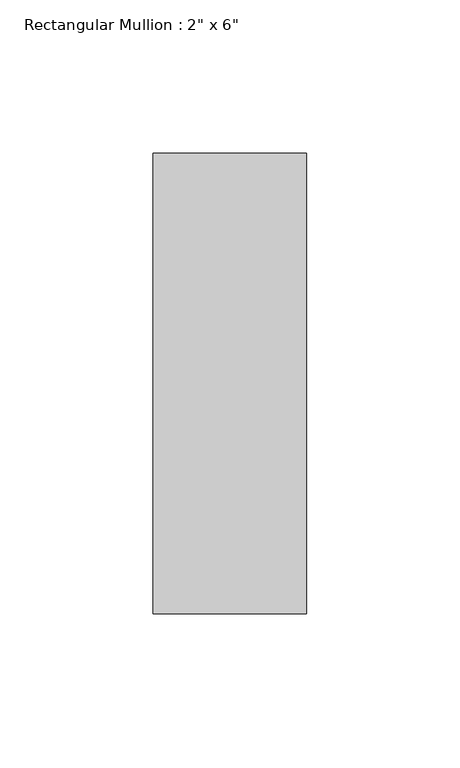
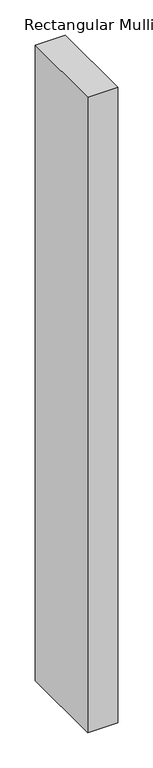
"""IFC4 building model written with IfcOpenShell, lengths in millimetres: member geometry."""

import ifcopenshell
import ifcopenshell.guid

model = None  # the IFC model being written
_history = None  # IfcOwnerHistory: only IFC2X3 demands one
_inside = {}  # id of a spatial element -> (the spatial element, [elements in it])
_under = {}  # id of a project, library or spatial element -> (it, [spatial elements below it])
_declared = {}  # id of a project -> (the project, [libraries it declares])
_typed = {}  # id of a type object -> (the type object, [elements of that type])
_made_of = {}  # id of a material, layer set ... -> (it, [elements and type objects made of it])


def new_model(schema):
    """Start an empty IFC model of exactly this schema.

    Asked for "IFC4X3", IfcOpenShell would pick the latest addendum, in which some entities
    have other attributes; the version numbers below select the first issue.
    IFC2X3 requires an IfcOwnerHistory on every rooted entity: one is made here for all.
    """
    global model, _history
    if schema == "IFC4X3":
        model = ifcopenshell.file(schema_version=(4, 3, 0, 0))
    else:
        model = ifcopenshell.file(schema=schema)
    _inside.clear()
    _under.clear()
    _declared.clear()
    _typed.clear()
    _made_of.clear()
    _history = None
    if model.schema == "IFC2X3":
        org = make("IfcOrganization", Name="unknown")
        user = make(
            "IfcPersonAndOrganization",
            ThePerson=make("IfcPerson", FamilyName="unknown"),
            TheOrganization=org,
        )
        app = make(
            "IfcApplication",
            ApplicationDeveloper=org,
            Version="unknown",
            ApplicationFullName="unknown",
            ApplicationIdentifier="unknown",
        )
        _history = make(
            "IfcOwnerHistory",
            OwningUser=user,
            OwningApplication=app,
            ChangeAction="ADDED",
            CreationDate=0,
        )
    return model


def make(cls, **values):
    """One entity of the class cls with the attributes given. An attribute that is None is left unset."""
    return model.create_entity(
        cls, **{name: value for name, value in values.items() if value is not None}
    )


def rooted(cls, **values):
    """An entity with a GlobalId (a new one), such as an element, a storey or a relation."""
    return make(cls, GlobalId=ifcopenshell.guid.new(), OwnerHistory=_history, **values)


def si_unit(unit_type, name, prefix=None):
    """IfcSIUnit, for example si_unit("LENGTHUNIT", "METRE", prefix="MILLI")."""
    return make("IfcSIUnit", UnitType=unit_type, Prefix=prefix, Name=name)


def assignment(units):
    """IfcUnitAssignment: the units of a project."""
    return None if units is None else make("IfcUnitAssignment", Units=units)


def point(xyz):
    """IfcCartesianPoint."""
    return None if xyz is None else make("IfcCartesianPoint", Coordinates=xyz)


def direction(xyz):
    """IfcDirection."""
    return None if xyz is None else make("IfcDirection", DirectionRatios=xyz)


def frame(location, z_axis=None, x_axis=None):
    """IfcAxis2Placement3D, a coordinate frame: its origin and axes. An axis left out is left unset."""
    return make(
        "IfcAxis2Placement3D",
        Location=point(location),
        Axis=direction(z_axis),
        RefDirection=direction(x_axis),
    )


def origin():
    """The frame at (0, 0, 0) with its axes left unset."""
    return frame((0.0, 0.0, 0.0))


def place(relative_to, where):
    """IfcLocalPlacement: puts the frame where relative to a parent placement (None: the world)."""
    return make(
        "IfcLocalPlacement", PlacementRelTo=relative_to, RelativePlacement=where
    )


def context(
    kind, dimensions, precision=None, world=None, true_north=None, identifier=None
):
    """IfcGeometricRepresentationContext, for example the 3D "Model" context."""
    return make(
        "IfcGeometricRepresentationContext",
        ContextIdentifier=identifier,
        ContextType=kind,
        CoordinateSpaceDimension=dimensions,
        Precision=precision,
        WorldCoordinateSystem=world,
        TrueNorth=true_north,
    )


def project(units=None, contexts=None):
    """IfcProject with its units and contexts."""
    return rooted(
        "IfcProject",
        Name="project",
        RepresentationContexts=contexts,
        UnitsInContext=assignment(units),
    )


def spatial(cls, under=None, at=None, **own):
    """A site, building, storey or space (cls), placed at a placement, below another one or the project."""
    s = rooted(cls, ObjectPlacement=at, **own)
    if under is not None:
        _under.setdefault(under.id(), (under, []))[1].append(s)
    return s


def polyline(points):
    """IfcPolyline through the points."""
    return make("IfcPolyline", Points=[point(p) for p in points])


def outline(outer, holes=None, kind="AREA"):
    """IfcArbitraryClosedProfileDef: a profile drawn as a closed curve; with holes, ...WithVoids."""
    if holes is None:
        return make("IfcArbitraryClosedProfileDef", ProfileType=kind, OuterCurve=outer)
    return make(
        "IfcArbitraryProfileDefWithVoids",
        ProfileType=kind,
        OuterCurve=outer,
        InnerCurves=holes,
    )


def extrude(swept, where, along, depth):
    """IfcExtrudedAreaSolid: the profile swept, set in the frame where, extruded along a direction by depth."""
    return make(
        "IfcExtrudedAreaSolid",
        SweptArea=swept,
        Position=where,
        ExtrudedDirection=direction(along),
        Depth=depth,
    )


def shape(context_of_items, identifier, shape_type, items):
    """IfcShapeRepresentation: the items that make up one representation, for example the "Body"."""
    return make(
        "IfcShapeRepresentation",
        ContextOfItems=context_of_items,
        RepresentationIdentifier=identifier,
        RepresentationType=shape_type,
        Items=items,
    )


def source(mapping_origin, context_of_items, identifier, shape_type, items):
    """IfcRepresentationMap: a shape defined once, which mapped items show again and again."""
    return make(
        "IfcRepresentationMap",
        MappingOrigin=mapping_origin,
        MappedRepresentation=shape(context_of_items, identifier, shape_type, items),
    )


def transform(
    local_origin,
    x_axis=None,
    y_axis=None,
    z_axis=None,
    scale=None,
    scale2=None,
    scale3=None,
    uniform=True,
):
    """IfcCartesianTransformationOperator3D, or its non-uniform kind. x_axis, y_axis, z_axis: its Axis1, 2, 3."""
    if uniform:
        return make(
            "IfcCartesianTransformationOperator3D",
            Axis1=direction(x_axis),
            Axis2=direction(y_axis),
            LocalOrigin=point(local_origin),
            Scale=scale,
            Axis3=direction(z_axis),
        )
    return make(
        "IfcCartesianTransformationOperator3DnonUniform",
        Axis1=direction(x_axis),
        Axis2=direction(y_axis),
        LocalOrigin=point(local_origin),
        Scale=scale,
        Axis3=direction(z_axis),
        Scale2=scale2,
        Scale3=scale3,
    )


def mapped(mapping_source, mapping_target):
    """IfcMappedItem: shows the shape of a source again, moved by a transform."""
    return make(
        "IfcMappedItem", MappingSource=mapping_source, MappingTarget=mapping_target
    )


def made_of(thing, what):
    """Note that an element or type object is made of a material, layer set ...; save() writes the relation."""
    if what is not None:
        _made_of.setdefault(what.id(), (what, []))[1].append(thing)
    return thing


def element(
    cls,
    number,
    at=None,
    inside=None,
    cuts=None,
    type_object=None,
    material=None,
    context=None,
    identifier="Body",
    shape_type=None,
    held_by="IfcProductDefinitionShape",
    body=None,
    shapes=None,
    **own,
):
    """One element of the class cls, such as IfcWall. Its Tag is "e" and its number.

    at: its placement. inside: the storey or other place that contains it. cuts: it is an
    opening in that element (IfcRelVoidsElement). A single representation is given by context,
    identifier, shape_type and body (its items); several are given by shapes. held_by: the class
    of the entity that holds the representations. save() writes the other relations.
    """
    e = rooted(cls, Tag="e%d" % number, ObjectPlacement=at, **own)
    if body is not None:
        shapes = [shape(context, identifier, shape_type, body)]
    if shapes is not None:
        e.Representation = make(held_by, Representations=shapes)
    if inside is not None:
        _inside.setdefault(inside.id(), (inside, []))[1].append(e)
    if cuts is not None:
        rooted(
            "IfcRelVoidsElement", RelatingBuildingElement=cuts, RelatedOpeningElement=e
        )
    if type_object is not None:
        _typed.setdefault(type_object.id(), (type_object, []))[1].append(e)
    return made_of(e, material)


def aggregate(whole, parts):
    """IfcRelAggregates: a whole, such as a stair, and the parts it consists of."""
    return rooted("IfcRelAggregates", RelatingObject=whole, RelatedObjects=parts)


def save(model, path):
    """Write the relations noted so far, then the file.

    IfcRelAggregates (storeys below a building ...), IfcRelContainedInSpatialStructure (elements
    in a storey), IfcRelDefinesByType, IfcRelAssociatesMaterial and IfcRelDeclares: one each for
    every whole, place, type object, material and project.
    """
    for whole, parts in _under.values():
        aggregate(whole, parts)
    for where, things in _inside.values():
        rooted(
            "IfcRelContainedInSpatialStructure",
            RelatedElements=things,
            RelatingStructure=where,
        )
    for kind, things in _typed.values():
        rooted("IfcRelDefinesByType", RelatedObjects=things, RelatingType=kind)
    for what, things in _made_of.values():
        rooted("IfcRelAssociatesMaterial", RelatedObjects=things, RelatingMaterial=what)
    for by, libraries in _declared.values():
        rooted("IfcRelDeclares", RelatingContext=by, RelatedDefinitions=libraries)
    model.write(path)


def member_896ed19a(model_context):
    return source(origin(), model_context, "Body", "SweptSolid", [
        extrude(outline(polyline([(25.0, 0.0), (25.0, -150.0), (-25.0, -150.0), (-25.0, 0.0), (25.0, 0.0)])), frame((0.0, 0.0, -1107.7406651), z_axis=(0.0, 0.0, 1.0), x_axis=(1.0, 0.0, 0.0)), (0.0, 0.0, 1.0), 1107.7406651),
    ])


if __name__ == "__main__":
    model = new_model("IFC4")
    model_context = context("Model", 3, world=origin())
    ifc_project = project(units=[si_unit("LENGTHUNIT", "METRE", prefix="MILLI")], contexts=[model_context])
    site = spatial("IfcSite", under=ifc_project)
    building = spatial("IfcBuilding", under=site)
    placement = place(None, origin())
    member_shape = member_896ed19a(model_context)
    element("IfcMember", 1, ObjectType="Rectangular Mullion : 2\" x 6\"", at=placement, inside=building, context=model_context, shape_type="MappedRepresentation", body=[
        mapped(member_shape, transform((0.0, 0.0, 0.0), x_axis=(1.0, 0.0, 0.0), y_axis=(0.0, 1.0, 0.0), z_axis=(0.0, 0.0, 1.0))),
    ])
    save(model, "model.ifc")
